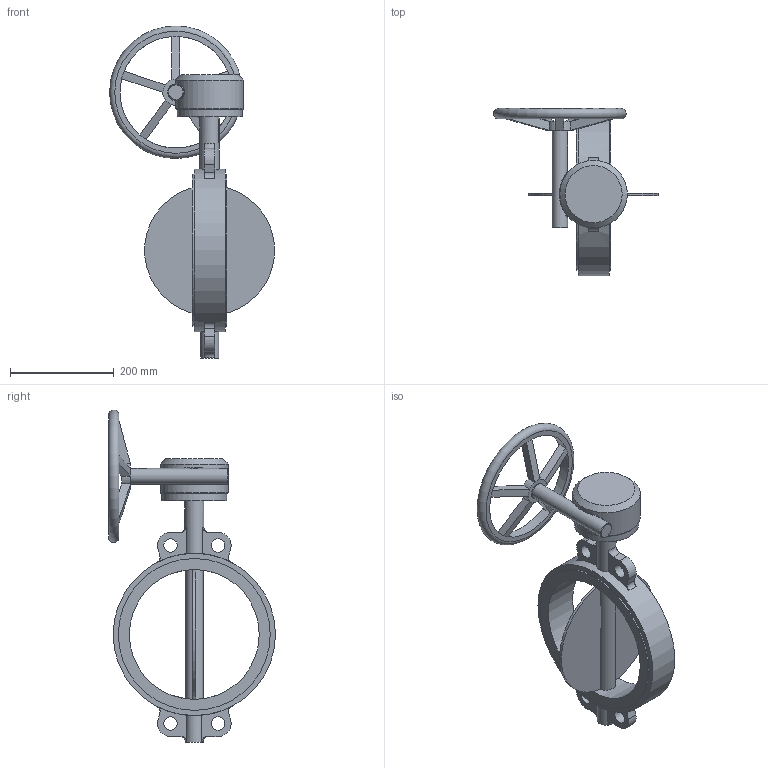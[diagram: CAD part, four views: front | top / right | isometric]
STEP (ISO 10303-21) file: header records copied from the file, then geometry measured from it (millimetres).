
FILE_DESCRIPTION(('STEP AP203'), '1');
FILE_NAME('青蜮铕 017W.Y_DN250_PN16_疱潴牝铕', '', ('UNSPECIFIED'), ('UNSPECIFIED'), 'ASCON STEP Converter 1.6', 'ASCON Math Kernel', '');
FILE_SCHEMA(('CONFIG_CONTROL_DESIGN'));
Length unit declared in the file: millimetre
Bounding box: 317.26 x 321.2 x 639 mm (x, y, z)
Volume: 4052743.9 mm3; surface area: 473184.2 mm2
Topology: 1 solids, 1 shells, 138 faces, 335 edges, 208 vertices
Faces by surface type: plane 64, cylinder 45, cone 19, torus 8, bspline 2
Full cylindrical faces by diameter (mm): 10.106 x4, 12 x4, 26 x4, 30 x1, 35 x2, 37 x1, 125 x1, 130 x1, 215 x1, 250 x1, 292.4 x2, 312.4 x1
Entity records: 6936 total; most frequent: CARTESIAN_POINT 2673, DIRECTION 668, ORIENTED_EDGE 586, EDGE_CURVE 293, AXIS2_PLACEMENT_3D 282, EDGE_LOOP 207, VERTEX_POINT 204, CIRCLE 145
